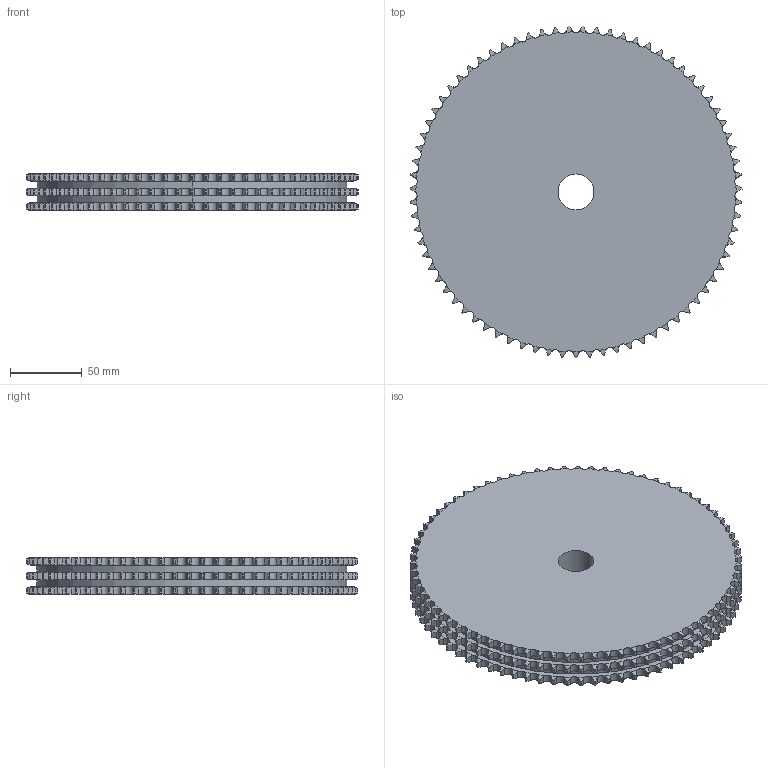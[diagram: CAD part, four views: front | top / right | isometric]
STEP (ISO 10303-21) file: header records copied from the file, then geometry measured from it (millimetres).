
FILE_DESCRIPTION((''),'2;1');
FILE_NAME('500-103-0075_PRT','2021-02-12T',('Brieden'),('Brieden'),'PRO/ENGINEER BY PARAMETRIC TECHNOLOGY CORPORATION, 2010160','PRO/ENGINEER BY PARAMETRIC TECHNOLOGY CORPORATION, 2010160','');
FILE_SCHEMA(('AUTOMOTIVE_DESIGN { 1 0 10303 214 1 1 1 1 }'));
Length unit declared in the file: millimetre
Products named in the file (1): 500-103-0075_PRT
Bounding box: 230.8 x 230.75 x 25.6 mm (x, y, z)
Volume: 970051.2 mm3; surface area: 115574.6 mm2
Topology: 1 solids, 1 shells, 1362 faces, 4068 edges, 2712 vertices
Faces by surface type: cylinder 906, torus 450, plane 6
Entity records: 67335 total; most frequent: CARTESIAN_POINT 20628, ORIENTED_EDGE 8136, DIRECTION 6354, PRESENTATION_STYLE_ASSIGNMENT 4069, STYLED_ITEM 4069, CURVE_STYLE 4068, EDGE_CURVE 4068, AXIS2_PLACEMENT_3D 2724
